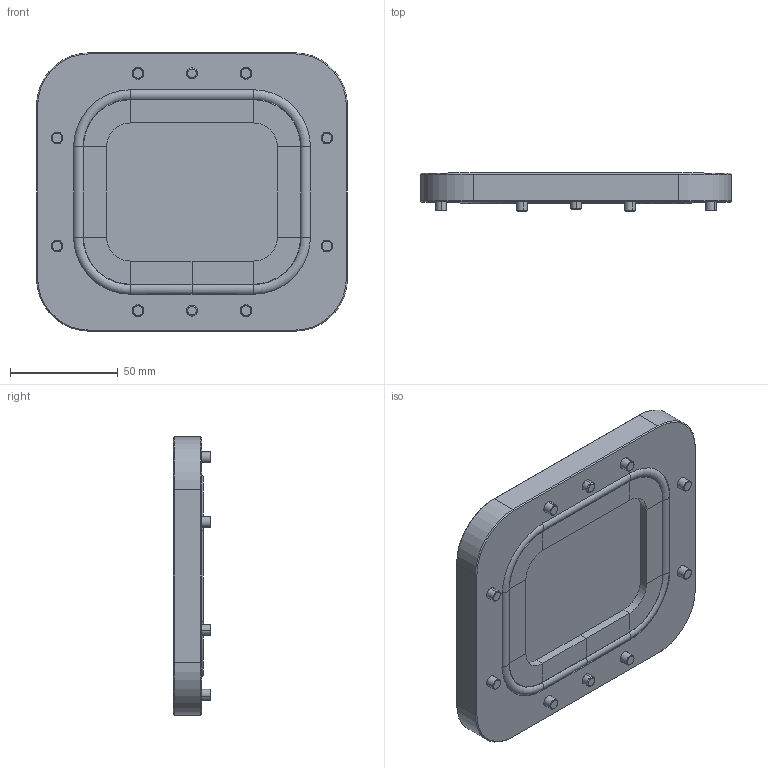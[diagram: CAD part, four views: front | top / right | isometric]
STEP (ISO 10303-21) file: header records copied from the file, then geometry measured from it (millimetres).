
FILE_DESCRIPTION (( 'STEP AP214' ), '1' );
FILE_NAME ('JKR0806-G-A-V-A-200503.STEP', '2020-05-03T06:05:35', ( '' ), ( '' ), 'SwSTEP 2.0', 'SolidWorks 2018', '' );
FILE_SCHEMA (( 'AUTOMOTIVE_DESIGN' ));
Length unit declared in the file: millimetre
Products named in the file (8): JKR0806-04A; JKR0806-G-A-V-A-200503; JKR0806-02A; COM-001-M5-12L_ル遽; COM-005-5-10L; JKR0806-05A; JKR0806-01A; JKR0806-03A
Assembly tree (15 placements, depth 2):
  JKR0806-G-A-V-A-200503
    JKR0806-03A
    JKR0806-04A
    JKR0806-01A
    JKR0806-02A
    JKR0806-05A
    COM-001-M5-12L_ル遽  x8
    COM-005-5-10L  x2
Bounding box: 144 x 17.4 x 129 mm (x, y, z)
Volume: 190546 mm3; surface area: 85050 mm2
Topology: 15 solids, 15 shells, 497 faces, 1086 edges, 641 vertices
Faces by surface type: cylinder 185, plane 180, cone 68, torus 64
Entity records: 10519 total; most frequent: DIRECTION 1921, CARTESIAN_POINT 1897, ORIENTED_EDGE 1612, EDGE_CURVE 806, AXIS2_PLACEMENT_3D 775, VERTEX_POINT 465, EDGE_LOOP 395, CIRCLE 394
